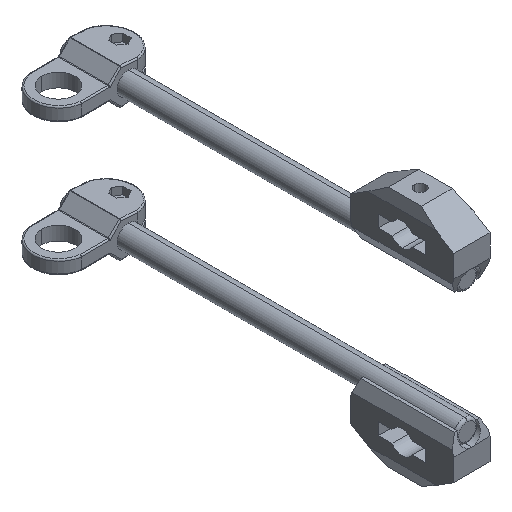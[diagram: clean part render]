
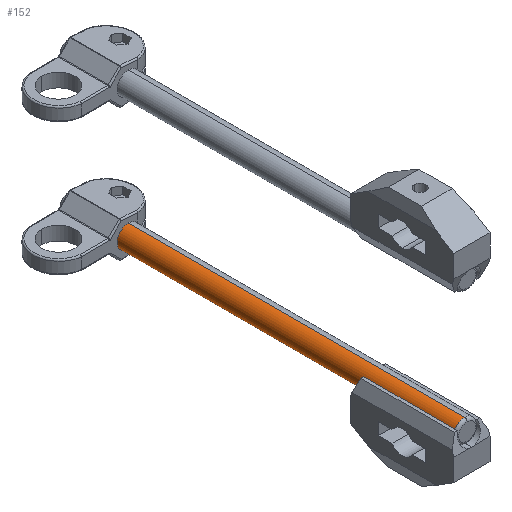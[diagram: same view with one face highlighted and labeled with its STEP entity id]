
A CAD part, isometric view. The second image highlights one B-rep face of the part: STEP entity #152.
In plain terms, the highlighted cylindrical face has radius 6.35 mm (diameter 12.7 mm), a partial arc.
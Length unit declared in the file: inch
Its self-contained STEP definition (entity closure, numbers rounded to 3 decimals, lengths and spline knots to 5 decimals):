
#1=DIRECTION('',(0.,1.,0.));
#2=VECTOR('',#1,8.88);
#3=CARTESIAN_POINT('',(0.,-4.44,-0.25));
#4=LINE('',#3,#2);
#20=CARTESIAN_POINT('',(0.,4.44,0.));
#21=DIRECTION('',(0.,1.,0.));
#22=DIRECTION('',(0.,0.,-1.));
#23=AXIS2_PLACEMENT_3D('',#20,#21,#22);
#35=DIRECTION('',(0.,1.,0.));
#36=VECTOR('',#35,8.88);
#37=CARTESIAN_POINT('',(0.,-4.44,0.25));
#38=LINE('',#37,#36);
#44=CARTESIAN_POINT('',(0.,-4.44,0.));
#45=DIRECTION('',(0.,-1.,0.));
#46=DIRECTION('',(0.,0.,1.));
#47=AXIS2_PLACEMENT_3D('',#44,#45,#46);
#69=CARTESIAN_POINT('',(0.,-4.44,0.25));
#71=VERTEX_POINT('',#69);
#73=CARTESIAN_POINT('',(0.,-4.44,-0.25));
#75=VERTEX_POINT('',#73);
#81=CARTESIAN_POINT('',(0.,4.44,-0.25));
#82=VERTEX_POINT('',#81);
#83=CARTESIAN_POINT('',(0.,4.44,0.25));
#84=VERTEX_POINT('',#83);
#140=CARTESIAN_POINT('',(0.,4.5,0.));
#141=DIRECTION('',(0.,-1.,0.));
#142=DIRECTION('',(0.,0.,-1.));
#143=AXIS2_PLACEMENT_3D('',#140,#141,#142);
#144=CYLINDRICAL_SURFACE('',#143,0.25);
#145=ORIENTED_EDGE('',*,*,#96,.F.);
#147=ORIENTED_EDGE('',*,*,#146,.T.);
#148=ORIENTED_EDGE('',*,*,#92,.T.);
#149=ORIENTED_EDGE('',*,*,#125,.T.);
#150=EDGE_LOOP('',(#145,#147,#148,#149));
#151=FACE_OUTER_BOUND('',#150,.F.);
#24=CIRCLE('',#23,0.25);
#48=CIRCLE('',#47,0.25);
#92=EDGE_CURVE('',#75,#82,#4,.T.);
#96=EDGE_CURVE('',#71,#84,#38,.T.);
#125=EDGE_CURVE('',#82,#84,#24,.T.);
#146=EDGE_CURVE('',#71,#75,#48,.T.);
#152=ADVANCED_FACE('',(#151),#144,.T.);
